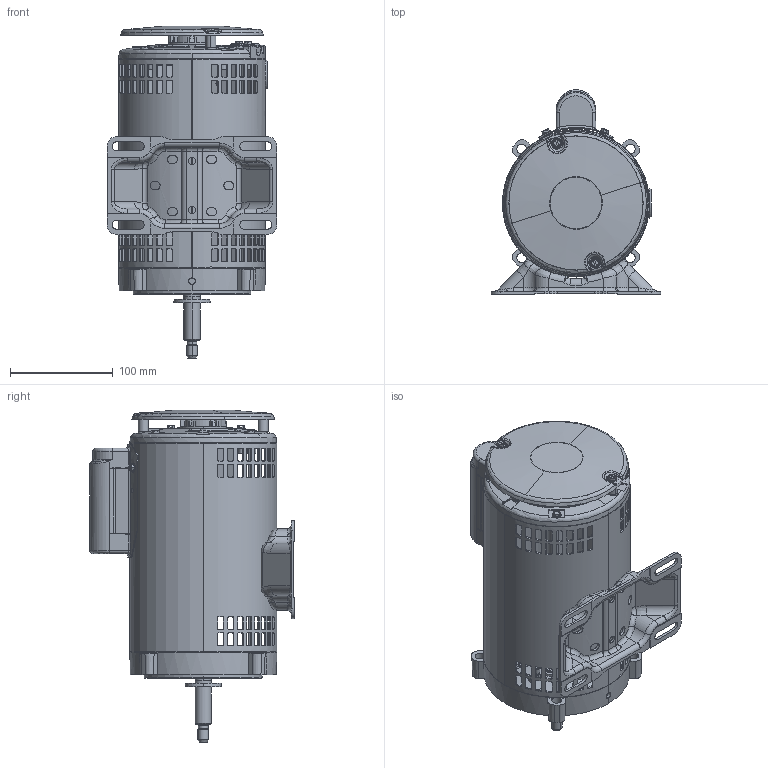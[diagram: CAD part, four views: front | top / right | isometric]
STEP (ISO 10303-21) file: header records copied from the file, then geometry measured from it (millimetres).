
FILE_DESCRIPTION (( 'STEP AP203' ), '1' );
FILE_NAME ('SS75916-800_Rev4.STEP', '2017-06-05T11:59:35', ( 'admin' ), ( '' ), 'SwSTEP 2.0', 'SolidWorks 2015', '' );
FILE_SCHEMA (( 'CONFIG_CONTROL_DESIGN' ));
Length unit declared in the file: inch
Products named in the file (1): SS75916-800_Rev4
Bounding box: 165.1 x 198.59 x 322.52 mm (x, y, z)
Volume: 513720.5 mm3; surface area: 459451.5 mm2
Topology: 33 solids, 33 shells, 3555 faces, 9381 edges, 5886 vertices
Faces by surface type: plane 1340, cylinder 745, bspline 698, cone 421, torus 343, sphere 8
Entity records: 155898 total; most frequent: CARTESIAN_POINT 74813, ORIENTED_EDGE 18646, DIRECTION 14846, EDGE_CURVE 9323, AXIS2_PLACEMENT_3D 5952, VERTEX_POINT 5878, EDGE_LOOP 3841, ADVANCED_FACE 3555
